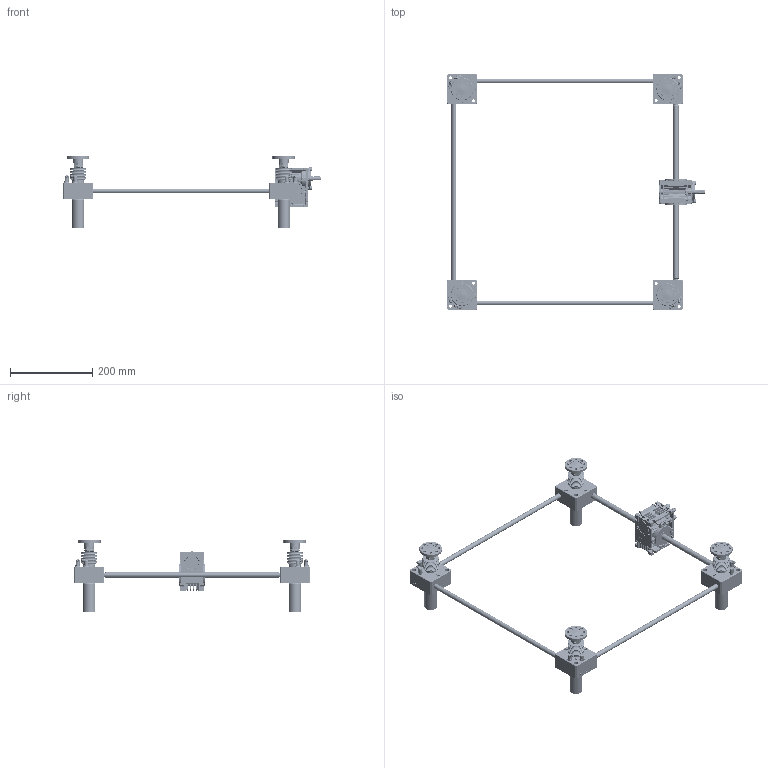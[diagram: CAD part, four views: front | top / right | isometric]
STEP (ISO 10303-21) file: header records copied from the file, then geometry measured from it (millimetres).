
FILE_DESCRIPTION(('STEP AP203'),'1');
FILE_NAME('SPH300FCJ-500x500-250-50ST_CAP-030.stp','2016-08-18T02:30:13',(' '),(' '),'Spatial InterOp 3D',' ',' ');
FILE_SCHEMA(('CONFIG_CONTROL_DESIGN'));
Length unit declared in the file: millimetre
Products named in the file (107): SPH300FCJ-500x500-250-50ST_CAP-030; Rack Gear(SP-300FC); Flange.1-Part; Flange.1; Joint.1; Nut.1; Flange.2-Part; Flange.2; Joint.2; Nut.2; Flange.3-Part; Flange.3; Joint.3; Nut.3; Flange.4-Part; Flange.4; Joint.4; Nut.4; Belloew(SP-300); Body.1-Part; Nipple; Bolt; Gear Box.1(Upper); Gear Box.1(Lower); RJ05-4SCJ-610X600-100ST_CAP; LABEL-B.1; ___; 파트18; __ ; Body.2-Part; Gear Box.2(Upper); Gear Box.2(Lower); Body.3-Part; Gear Box.3(Upper); Gear Box.3(Lower); Body.4-Part; Gear Box.4(Upper); Gear Box.4(Lower); Cap.1-Part; Cap.1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
Assembly tree (110 placements, depth 6):
  SPH300FCJ-500x500-250-50ST_CAP-030
    Rack Gear(SP-300FC)  x4
    Flange.1-Part
      Flange.1
      Joint.1
      Nut.1
    Flange.2-Part
      Flange.2
      Joint.2
      Nut.2
    Flange.3-Part
      Flange.3
      Joint.3
      Nut.3
    Flange.4-Part
      Flange.4
      Joint.4
      Nut.4
    Belloew(SP-300)
    Belloew(SP-300)
    Belloew(SP-300)
    Belloew(SP-300)
    Body.1-Part
      Nipple
      Nipple
      Bolt
      Bolt
      Bolt
      Gear Box.1(Upper)
      Gear Box.1(Lower)
      __ 
        ___
          RJ05-4SCJ-610X600-100ST_CAP
            LABEL-B.1
          파트18
    Body.2-Part
      Nipple
      Nipple
      Bolt
      Bolt
      Bolt
      Gear Box.2(Upper)
      Gear Box.2(Lower)
      __ 
        ___
          RJ05-4SCJ-610X600-100ST_CAP
            LABEL-B.1
          파트18
    Body.3-Part
      Nipple
      Nipple
      Bolt
      Bolt
      Bolt
      Gear Box.3(Upper)
      Gear Box.3(Lower)
      __ 
        ___
          RJ05-4SCJ-610X600-100ST_CAP
            LABEL-B.1
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Bounding box: 628.18 x 574.35 x 175 mm (x, y, z)
Volume: 1091257 mm3; surface area: 687252.2 mm2
Topology: 130 solids, 813 shells, 11483 faces, 33912 edges, 23658 vertices
Faces by surface type: plane 9822, cylinder 809, cone 383, revolution 168, extrusion 152, torus 113, sphere 36
Full cylindrical faces by diameter (mm): 1.525 x8, 4.8 x8, 6 x40, 7 x44, 9 x9, 9.886 x8, 10 x3, 11 x32, 12 x14, 13.8 x4, 14 x1, 15 x8, 17 x4, 18 x4, 18.856 x36, 19 x8, 20 x8, 20.3 x8, 21.3 x8, 23 x4, 24 x8, 24.3 x4, 24.8 x1, 25 x4, 26 x12, 26.2 x4, 27 x8, 27.2 x4, 28 x16, 28.3 x4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
Entity records: 367387 total; most frequent: CARTESIAN_POINT 77546, ORIENTED_EDGE 59126, DIRECTION 53742, EDGE_CURVE 31474, VECTOR 27880, LINE 27728, VERTEX_POINT 22424, AXIS2_PLACEMENT_3D 12847
